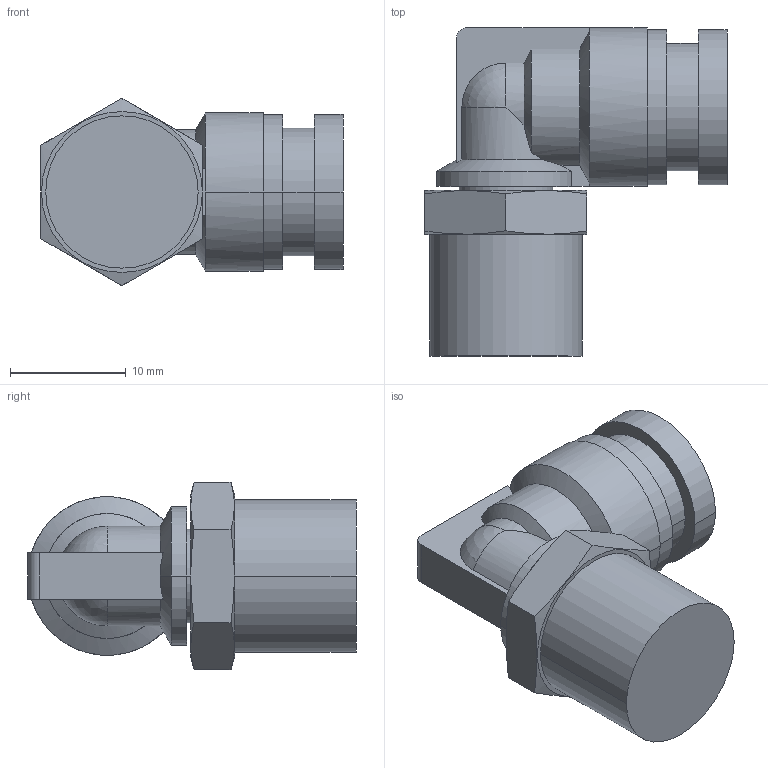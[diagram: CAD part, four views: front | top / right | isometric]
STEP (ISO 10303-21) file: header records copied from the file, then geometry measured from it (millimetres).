
FILE_DESCRIPTION( ( '' ), '1' );
FILE_NAME( 'G:/SMC狟婥/KQ2L08-02AS.stp', '2023-03-07T03:03:56', ( '' ), ( '' ), ' ', ' ', ' ' );
FILE_SCHEMA( ( 'CONFIG_CONTROL_DESIGN' ) );
Length unit declared in the file: millimetre
Products named in the file (1): 1
Bounding box: 26.1 x 28.35 x 16.17 mm (x, y, z)
Volume: 4060.2 mm3; surface area: 2646.5 mm2
Topology: 1 solids, 1 shells, 60 faces, 146 edges, 93 vertices
Faces by surface type: plane 25, cylinder 23, cone 10, sphere 2
Entity records: 1800 total; most frequent: CARTESIAN_POINT 396, DIRECTION 290, ORIENTED_EDGE 288, EDGE_CURVE 144, AXIS2_PLACEMENT_3D 119, VERTEX_POINT 93, EDGE_LOOP 67, ADVANCED_FACE 60
